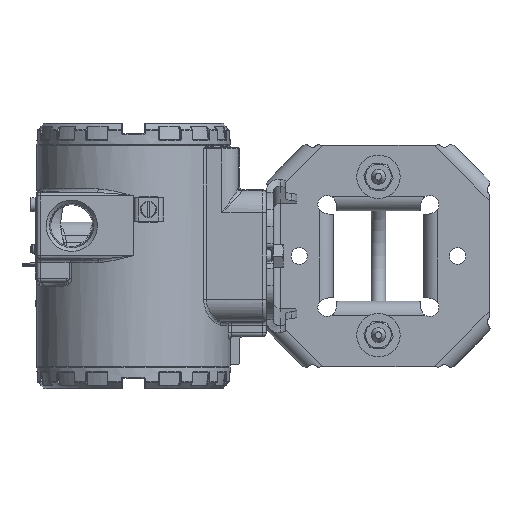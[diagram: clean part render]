
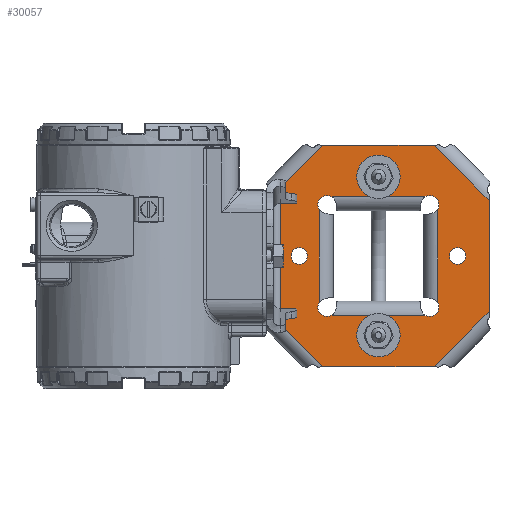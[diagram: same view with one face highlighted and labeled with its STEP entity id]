
A CAD part, left-side view. The second image highlights one B-rep face of the part: STEP entity #30057.
In plain terms, the highlighted planar face has unit normal (-1, 0, 0) as drawn and (-0.977, -0.211, -0.023) by its records, which use the part's own axes.
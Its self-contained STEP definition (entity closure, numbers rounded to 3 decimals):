
#1321=PLANE('',#33952);
#1837=FACE_BOUND('',#5661,.T.);
#1838=FACE_BOUND('',#5662,.T.);
#1839=FACE_BOUND('',#5663,.T.);
#1840=FACE_BOUND('',#5664,.T.);
#1841=FACE_BOUND('',#5665,.T.);
#3687=FACE_OUTER_BOUND('',#5660,.T.);
#5660=EDGE_LOOP('',(#27503,#27504,#27505,#27506,#27507,#27508,#27509,#27510));
#5661=EDGE_LOOP('',(#27511,#27512,#27513,#27514,#27515,#27516,#27517,#27518));
#5662=EDGE_LOOP('',(#27519));
#5663=EDGE_LOOP('',(#27520));
#5664=EDGE_LOOP('',(#27521));
#5665=EDGE_LOOP('',(#27522));
#8909=CIRCLE('',#33890,3.5);
#8911=CIRCLE('',#33893,3.5);
#8913=CIRCLE('',#33896,3.5);
#8915=CIRCLE('',#33899,3.5);
#8917=CIRCLE('',#33902,4.);
#8923=CIRCLE('',#33932,4.);
#8928=CIRCLE('',#33942,4.);
#8934=CIRCLE('',#33953,4.);
#9882=LINE('',#67037,#11125);
#10083=LINE('',#68972,#11326);
#10100=LINE('',#70491,#11343);
#10118=LINE('',#72012,#11361);
#10122=LINE('',#72026,#11365);
#10135=LINE('',#73523,#11378);
#10136=LINE('',#73532,#11379);
#10149=LINE('',#75052,#11392);
#10151=LINE('',#75080,#11394);
#10160=LINE('',#76303,#11403);
#10172=LINE('',#77051,#11415);
#10182=LINE('',#77792,#11425);
#11125=VECTOR('',#41268,10.);
#11326=VECTOR('',#41933,10.);
#11343=VECTOR('',#41954,10.);
#11361=VECTOR('',#41976,10.);
#11365=VECTOR('',#41982,10.);
#11378=VECTOR('',#41999,10.);
#11379=VECTOR('',#42002,10.);
#11392=VECTOR('',#42025,10.);
#11394=VECTOR('',#42035,10.);
#11403=VECTOR('',#42058,10.);
#11415=VECTOR('',#42092,10.);
#11425=VECTOR('',#42124,10.);
#13725=VERTEX_POINT('',#66459);
#13733=VERTEX_POINT('',#66826);
#13953=VERTEX_POINT('',#68936);
#13955=VERTEX_POINT('',#68942);
#13957=VERTEX_POINT('',#68948);
#13959=VERTEX_POINT('',#68954);
#13962=VERTEX_POINT('',#68962);
#13965=VERTEX_POINT('',#68969);
#13966=VERTEX_POINT('',#68971);
#13991=VERTEX_POINT('',#70488);
#13992=VERTEX_POINT('',#70490);
#14018=VERTEX_POINT('',#72009);
#14019=VERTEX_POINT('',#72011);
#14038=VERTEX_POINT('',#73517);
#14059=VERTEX_POINT('',#75035);
#14084=VERTEX_POINT('',#76292);
#14086=VERTEX_POINT('',#76954);
#14091=VERTEX_POINT('',#76963);
#14101=VERTEX_POINT('',#77040);
#14105=VERTEX_POINT('',#77705);
#18016=EDGE_CURVE('',#13733,#13725,#9882,.T.);
#18337=EDGE_CURVE('',#13953,#13953,#8909,.T.);
#18340=EDGE_CURVE('',#13955,#13955,#8911,.T.);
#18343=EDGE_CURVE('',#13957,#13957,#8913,.T.);
#18346=EDGE_CURVE('',#13959,#13959,#8915,.T.);
#18350=EDGE_CURVE('',#13725,#13962,#8917,.T.);
#18353=EDGE_CURVE('',#13966,#13965,#10083,.T.);
#18391=EDGE_CURVE('',#13992,#13991,#10100,.T.);
#18430=EDGE_CURVE('',#14019,#14018,#10118,.T.);
#18435=EDGE_CURVE('',#13965,#14019,#10122,.T.);
#18467=EDGE_CURVE('',#14038,#13992,#10135,.T.);
#18469=EDGE_CURVE('',#14018,#14038,#10136,.T.);
#18505=EDGE_CURVE('',#14059,#13966,#10149,.T.);
#18510=EDGE_CURVE('',#13991,#14059,#10151,.T.);
#18546=EDGE_CURVE('',#13962,#14084,#10160,.T.);
#18558=EDGE_CURVE('',#14086,#14091,#8923,.T.);
#18572=EDGE_CURVE('',#14091,#14101,#10172,.T.);
#18581=EDGE_CURVE('',#14084,#14105,#8928,.T.);
#18596=EDGE_CURVE('',#14105,#14086,#10182,.T.);
#18601=EDGE_CURVE('',#14101,#13733,#8934,.T.);
#27503=ORIENTED_EDGE('',*,*,#18510,.T.);
#27504=ORIENTED_EDGE('',*,*,#18505,.T.);
#27505=ORIENTED_EDGE('',*,*,#18353,.T.);
#27506=ORIENTED_EDGE('',*,*,#18435,.T.);
#27507=ORIENTED_EDGE('',*,*,#18430,.T.);
#27508=ORIENTED_EDGE('',*,*,#18469,.T.);
#27509=ORIENTED_EDGE('',*,*,#18467,.T.);
#27510=ORIENTED_EDGE('',*,*,#18391,.T.);
#27511=ORIENTED_EDGE('',*,*,#18016,.T.);
#27512=ORIENTED_EDGE('',*,*,#18350,.T.);
#27513=ORIENTED_EDGE('',*,*,#18546,.T.);
#27514=ORIENTED_EDGE('',*,*,#18581,.T.);
#27515=ORIENTED_EDGE('',*,*,#18596,.T.);
#27516=ORIENTED_EDGE('',*,*,#18558,.T.);
#27517=ORIENTED_EDGE('',*,*,#18572,.T.);
#27518=ORIENTED_EDGE('',*,*,#18601,.T.);
#27519=ORIENTED_EDGE('',*,*,#18337,.T.);
#27520=ORIENTED_EDGE('',*,*,#18340,.T.);
#27521=ORIENTED_EDGE('',*,*,#18343,.T.);
#27522=ORIENTED_EDGE('',*,*,#18346,.T.);
#30057=ADVANCED_FACE('',(#3687,#1837,#1838,#1839,#1840,#1841),#1321,.T.);
#33890=AXIS2_PLACEMENT_3D('',#68938,#41898,#41899);
#33893=AXIS2_PLACEMENT_3D('',#68944,#41905,#41906);
#33896=AXIS2_PLACEMENT_3D('',#68950,#41912,#41913);
#33899=AXIS2_PLACEMENT_3D('',#68956,#41919,#41920);
#33902=AXIS2_PLACEMENT_3D('',#68964,#41927,#41928);
#33932=AXIS2_PLACEMENT_3D('',#76965,#42077,#42078);
#33942=AXIS2_PLACEMENT_3D('',#77707,#42107,#42108);
#33952=AXIS2_PLACEMENT_3D('',#78439,#42133,#42134);
#33953=AXIS2_PLACEMENT_3D('',#78440,#42135,#42136);
#41268=DIRECTION('',(-0.211,0.954,0.212));
#41898=DIRECTION('center_axis',(0.977,0.211,0.023));
#41899=DIRECTION('ref_axis',(-0.023,0.212,-0.977));
#41905=DIRECTION('center_axis',(0.977,0.211,0.023));
#41906=DIRECTION('ref_axis',(-0.023,0.212,-0.977));
#41912=DIRECTION('center_axis',(0.977,0.211,0.023));
#41913=DIRECTION('ref_axis',(-0.023,0.212,-0.977));
#41919=DIRECTION('center_axis',(0.977,0.211,0.023));
#41920=DIRECTION('ref_axis',(-0.023,0.212,-0.977));
#41927=DIRECTION('center_axis',(0.977,0.211,0.023));
#41928=DIRECTION('ref_axis',(-0.023,0.212,-0.977));
#41933=DIRECTION('',(0.211,-0.954,-0.212));
#41954=DIRECTION('',(-0.166,0.825,-0.541));
#41976=DIRECTION('',(0.023,-0.212,0.977));
#41982=DIRECTION('',(0.166,-0.825,0.541));
#41999=DIRECTION('',(-0.211,0.954,0.212));
#42002=DIRECTION('',(-0.133,0.524,0.841));
#42025=DIRECTION('',(0.133,-0.524,-0.841));
#42035=DIRECTION('',(-0.023,0.213,-0.977));
#42058=DIRECTION('',(0.023,-0.212,0.977));
#42077=DIRECTION('center_axis',(0.977,0.211,0.023));
#42078=DIRECTION('ref_axis',(0.023,-0.212,0.977));
#42092=DIRECTION('',(-0.023,0.212,-0.977));
#42107=DIRECTION('center_axis',(0.977,0.211,0.023));
#42108=DIRECTION('ref_axis',(-0.211,0.954,0.212));
#42124=DIRECTION('',(0.211,-0.954,-0.212));
#42133=DIRECTION('center_axis',(-0.977,-0.211,-0.023));
#42134=DIRECTION('ref_axis',(0.023,-0.212,0.977));
#42135=DIRECTION('center_axis',(0.977,0.211,0.023));
#42136=DIRECTION('ref_axis',(0.211,-0.954,-0.212));
#66459=CARTESIAN_POINT('',(-62.901,-115.052,35.519));
#66826=CARTESIAN_POINT('',(-54.502,-152.988,27.07));
#67037=CARTESIAN_POINT('',(-60.731,-124.853,33.336));
#68936=CARTESIAN_POINT('',(-65.219,-107.721,66.744));
#68938=CARTESIAN_POINT('Origin',(-65.3,-106.978,63.325));
#68942=CARTESIAN_POINT('',(-57.255,-147.383,92.735));
#68944=CARTESIAN_POINT('Origin',(-57.335,-146.64,89.316));
#68948=CARTESIAN_POINT('',(-50.855,-172.597,52.296));
#68950=CARTESIAN_POINT('Origin',(-50.935,-171.854,48.877));
#68954=CARTESIAN_POINT('',(-58.819,-132.935,26.306));
#68956=CARTESIAN_POINT('Origin',(-58.899,-132.192,22.887));
#68962=CARTESIAN_POINT('',(-63.939,-110.965,42.074));
#68964=CARTESIAN_POINT('Origin',(-63.271,-113.752,39.284));
#68969=CARTESIAN_POINT('',(-54.154,-152.157,4.613));
#68971=CARTESIAN_POINT('',(-64.266,-106.489,14.784));
#68972=CARTESIAN_POINT('',(-53.912,-153.251,4.369));
#70488=CARTESIAN_POINT('',(-66.356,-105.382,93.62));
#70490=CARTESIAN_POINT('',(-62.081,-126.673,107.589));
#70491=CARTESIAN_POINT('',(-68.51,-94.651,86.579));
#72009=CARTESIAN_POINT('',(-47.533,-189.819,69.389));
#72011=CARTESIAN_POINT('',(-48.634,-179.648,22.628));
#72012=CARTESIAN_POINT('',(-47.507,-190.062,70.509));
#72026=CARTESIAN_POINT('',(-52.304,-161.371,10.651));
#73517=CARTESIAN_POINT('',(-51.969,-172.342,97.418));
#73523=CARTESIAN_POINT('',(-62.323,-125.58,107.833));
#73532=CARTESIAN_POINT('',(-52.7,-169.464,102.034));
#75035=CARTESIAN_POINT('',(-67.702,-92.953,36.493));
#75052=CARTESIAN_POINT('',(-67.214,-94.873,33.414));
#75080=CARTESIAN_POINT('',(-67.365,-96.06,50.775));
#76292=CARTESIAN_POINT('',(-63.024,-119.413,80.919));
#76303=CARTESIAN_POINT('',(-63.71,-113.076,51.782));
#76954=CARTESIAN_POINT('',(-53.334,-163.779,76.683));
#76963=CARTESIAN_POINT('',(-52.296,-167.866,70.128));
#76965=CARTESIAN_POINT('Origin',(-52.964,-165.079,72.918));
#77040=CARTESIAN_POINT('',(-53.211,-159.418,31.283));
#77051=CARTESIAN_POINT('',(-52.525,-165.753,60.413));
#77705=CARTESIAN_POINT('',(-61.733,-125.843,85.132));
#77707=CARTESIAN_POINT('Origin',(-62.259,-123.101,82.267));
#77792=CARTESIAN_POINT('',(-63.763,-116.676,87.173));
#78439=CARTESIAN_POINT('Origin',(-66.377,-102.112,64.401));
#78440=CARTESIAN_POINT('Origin',(-53.976,-155.731,29.935));
